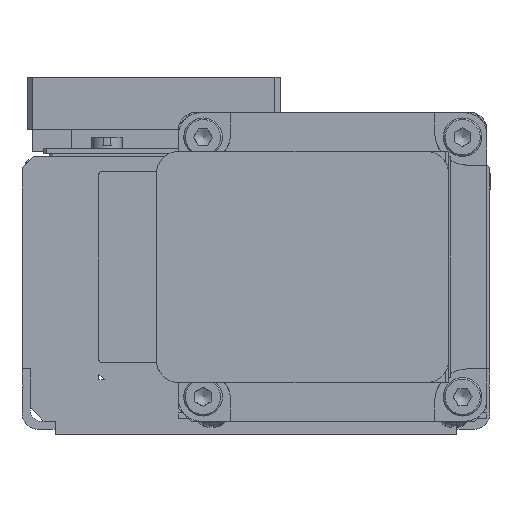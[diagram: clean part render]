
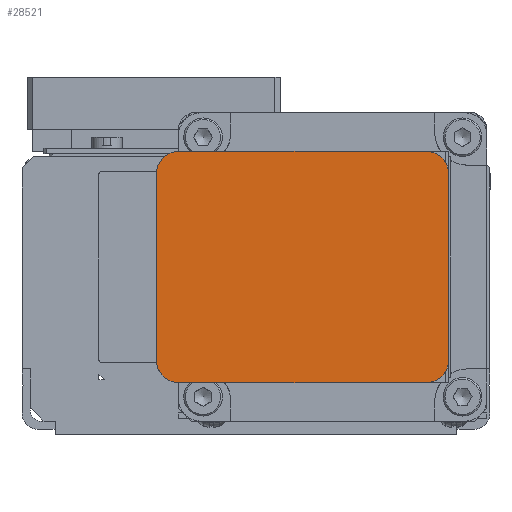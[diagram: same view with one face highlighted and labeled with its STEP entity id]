
A CAD part, left-side view. The second image highlights one B-rep face of the part: STEP entity #28521.
In plain terms, the highlighted planar face has unit normal (-1, 0, 0).
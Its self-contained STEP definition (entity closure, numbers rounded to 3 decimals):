
#28264=CARTESIAN_POINT('',(-161.5,-30.95,51.5));
#28265=VERTEX_POINT('',#28264);
#28272=CARTESIAN_POINT('',(-161.5,-34.95,47.5));
#28273=VERTEX_POINT('',#28272);
#28274=CARTESIAN_POINT('',(-161.5,-30.95,47.5));
#28275=DIRECTION('',(-1.0,0.0,0.0));
#28276=DIRECTION('',(0.0,-1.0,0.0));
#28277=AXIS2_PLACEMENT_3D('',#28274,#28275,#28276);
#28278=CIRCLE('',#28277,4.);
#28279=EDGE_CURVE('',#28273,#28265,#28278,.T.);
#28352=CARTESIAN_POINT('',(-161.5,-34.95,13.5));
#28353=VERTEX_POINT('',#28352);
#28360=CARTESIAN_POINT('',(-161.5,-30.95,9.5));
#28361=VERTEX_POINT('',#28360);
#28362=CARTESIAN_POINT('',(-161.5,-30.95,13.5));
#28363=DIRECTION('',(-1.0,0.0,0.0));
#28364=DIRECTION('',(0.0,0.0,-1.0));
#28365=AXIS2_PLACEMENT_3D('',#28362,#28363,#28364);
#28366=CIRCLE('',#28365,4.);
#28367=EDGE_CURVE('',#28361,#28353,#28366,.T.);
#28397=CARTESIAN_POINT('',(-161.5,18.05,47.5));
#28398=VERTEX_POINT('',#28397);
#28405=CARTESIAN_POINT('',(-161.5,14.05,51.5));
#28406=VERTEX_POINT('',#28405);
#28407=CARTESIAN_POINT('',(-161.5,14.05,47.5));
#28408=DIRECTION('',(-1.0,0.0,0.0));
#28409=DIRECTION('',(0.0,0.0,1.0));
#28410=AXIS2_PLACEMENT_3D('',#28407,#28408,#28409);
#28411=CIRCLE('',#28410,4.);
#28412=EDGE_CURVE('',#28406,#28398,#28411,.T.);
#28460=CARTESIAN_POINT('',(-161.5,14.05,9.5));
#28461=VERTEX_POINT('',#28460);
#28468=CARTESIAN_POINT('',(-161.5,18.05,13.5));
#28469=VERTEX_POINT('',#28468);
#28470=CARTESIAN_POINT('',(-161.5,14.05,13.5));
#28471=DIRECTION('',(-1.0,0.0,0.0));
#28472=DIRECTION('',(0.0,1.0,0.0));
#28473=AXIS2_PLACEMENT_3D('',#28470,#28471,#28472);
#28474=CIRCLE('',#28473,4.);
#28475=EDGE_CURVE('',#28469,#28461,#28474,.T.);
#28486=CARTESIAN_POINT('',(-161.5,18.05,30.5));
#28487=DIRECTION('',(-1.0,0.0,0.0));
#28488=DIRECTION('',(0.0,1.0,0.0));
#28489=AXIS2_PLACEMENT_3D('',#28486,#28487,#28488);
#28490=PLANE('',#28489);
#28491=ORIENTED_EDGE('',*,*,#28279,.T.);
#28492=CARTESIAN_POINT('',(-161.5,-30.95,51.5));
#28493=DIRECTION('',(0.0,1.0,0.0));
#28494=VECTOR('',#28493,45.0);
#28495=LINE('',#28492,#28494);
#28496=EDGE_CURVE('',#28265,#28406,#28495,.T.);
#28497=ORIENTED_EDGE('',*,*,#28496,.T.);
#28498=ORIENTED_EDGE('',*,*,#28412,.T.);
#28499=CARTESIAN_POINT('',(-161.5,18.05,13.5));
#28500=DIRECTION('',(0.0,0.0,1.0));
#28501=VECTOR('',#28500,34.0);
#28502=LINE('',#28499,#28501);
#28503=EDGE_CURVE('',#28469,#28398,#28502,.T.);
#28504=ORIENTED_EDGE('',*,*,#28503,.F.);
#28505=ORIENTED_EDGE('',*,*,#28475,.T.);
#28506=CARTESIAN_POINT('',(-161.5,14.05,9.5));
#28507=DIRECTION('',(0.0,-1.0,0.0));
#28508=VECTOR('',#28507,45.0);
#28509=LINE('',#28506,#28508);
#28510=EDGE_CURVE('',#28461,#28361,#28509,.T.);
#28511=ORIENTED_EDGE('',*,*,#28510,.T.);
#28512=ORIENTED_EDGE('',*,*,#28367,.T.);
#28513=CARTESIAN_POINT('',(-161.5,-34.95,47.5));
#28514=DIRECTION('',(0.0,0.0,-1.0));
#28515=VECTOR('',#28514,34.);
#28516=LINE('',#28513,#28515);
#28517=EDGE_CURVE('',#28273,#28353,#28516,.T.);
#28518=ORIENTED_EDGE('',*,*,#28517,.F.);
#28519=EDGE_LOOP('',(#28491,#28497,#28498,#28504,#28505,#28511,#28512,#28518));
#28520=FACE_OUTER_BOUND('',#28519,.T.);
#28521=ADVANCED_FACE('',(#28520),#28490,.T.);
